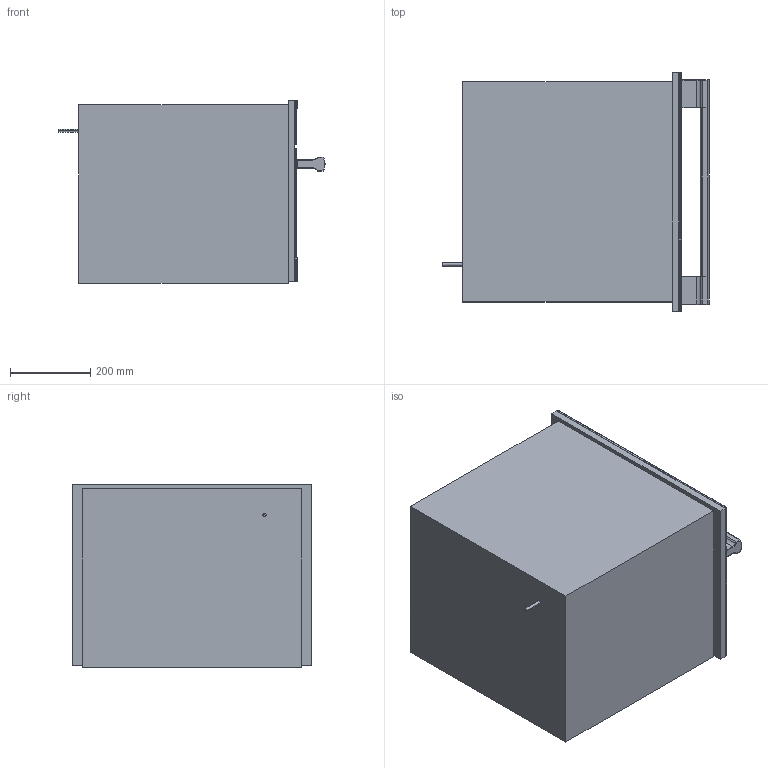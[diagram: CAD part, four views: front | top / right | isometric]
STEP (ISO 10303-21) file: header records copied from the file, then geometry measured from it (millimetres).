
FILE_DESCRIPTION(/* description */ (''),/* implementation_level */ '2;1');
FILE_NAME(/* name */ 'DG6500_CLST_NA',/* time_stamp */ '2013-10-31T16:06:25+01:00',/* author */ (''),/* organization */ (''),/* preprocessor_version */ 'ST-DEVELOPER v10',/* originating_system */ '',/* authorisation */ '');
FILE_SCHEMA (('AUTOMOTIVE_DESIGN_CC2'));
Length unit declared in the file: millimetre
Products named in the file (1): 1
Bounding box: 662.79 x 595.19 x 455.2 mm (x, y, z)
Volume: 98201065.2 mm3; surface area: 3397150.8 mm2
Topology: 46 solids, 47 shells, 298 faces, 583 edges, 370 vertices
Faces by surface type: bspline 298
Entity records: 18459 total; most frequent: CARTESIAN_POINT 14571, ORIENTED_EDGE 1138, EDGE_CURVE 575, VERTEX_POINT 370, EDGE_LOOP 302, ADVANCED_FACE 298, FACE_OUTER_BOUND 298, B_SPLINE_CURVE_WITH_KNOTS 242
